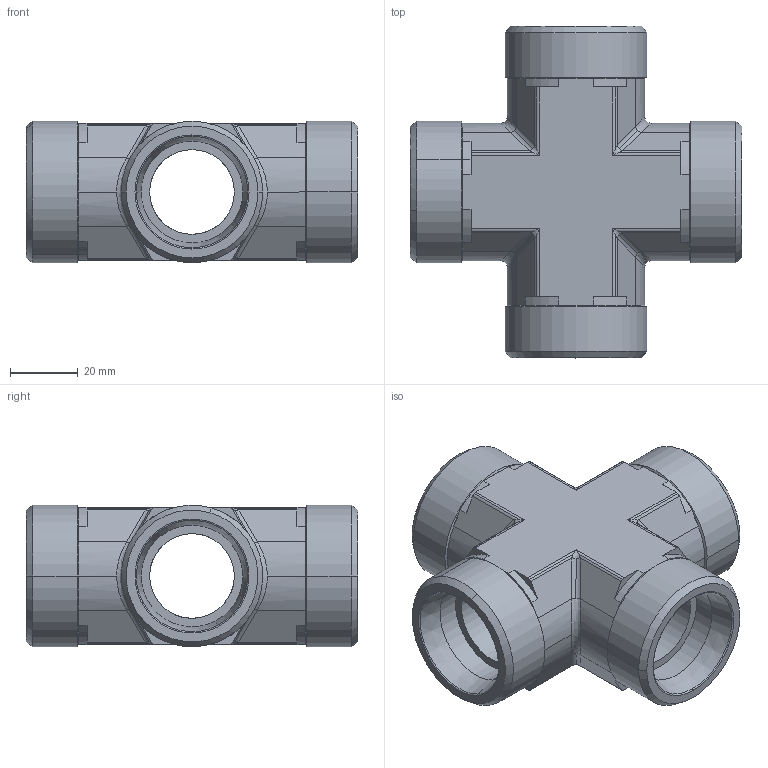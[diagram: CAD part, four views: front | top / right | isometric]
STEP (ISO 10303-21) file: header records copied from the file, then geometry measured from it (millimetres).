
FILE_DESCRIPTION((''),'2;1');
FILE_NAME('104022.stp','2007-10-31T13:13:41',(''),(''),'AutoCAD STEP 2000i','AutoCAD 2000i',', , ');
FILE_SCHEMA(('CONFIG_CONTROL_DESIGN'));
Length unit declared in the file: millimetre
Products named in the file (2): 104022.0; 3093#0
Assembly tree (1 placements, depth 2):
  104022.0
    3093#0
Bounding box: 98 x 98 x 41.82 mm (x, y, z)
Volume: 120679.4 mm3; surface area: 35890.3 mm2
Topology: 1 solids, 1 shells, 208 faces, 530 edges, 318 vertices
Faces by surface type: cylinder 106, plane 58, cone 24, bspline 20
Entity records: 7827 total; most frequent: CARTESIAN_POINT 2578, DIRECTION 1182, ORIENTED_EDGE 1044, EDGE_CURVE 522, AXIS2_PLACEMENT_3D 470, VERTEX_POINT 318, VECTOR 242, LINE 242
